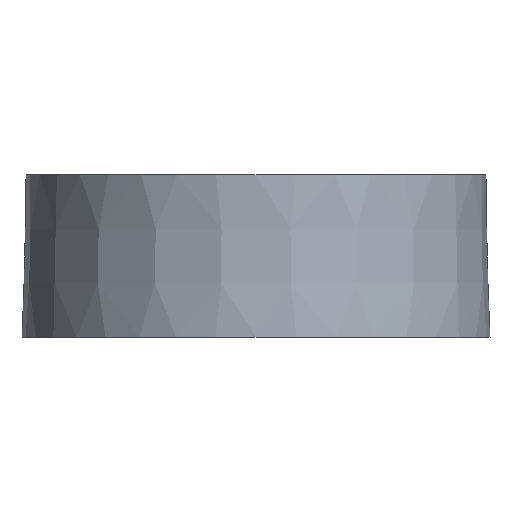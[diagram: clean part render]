
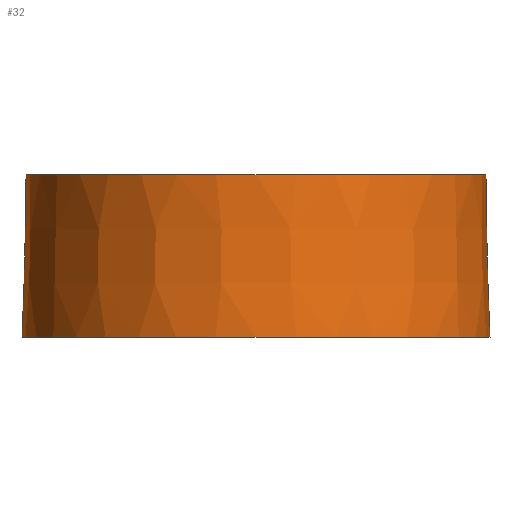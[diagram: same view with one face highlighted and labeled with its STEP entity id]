
A CAD part, front view. The second image highlights one B-rep face of the part: STEP entity #32.
In plain terms, the highlighted conical face has half-angle 1.43 degrees and reference radius 57.6 mm.
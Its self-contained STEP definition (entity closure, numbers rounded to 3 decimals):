
#32 = ADVANCED_FACE( '', ( #61, #62 ), #63, .T. );
#61 = FACE_BOUND( '', #84, .T. );
#62 = FACE_OUTER_BOUND( '', #85, .T. );
#63 = CONICAL_SURFACE( '', #86, 57.6, 0.025 );
#84 = EDGE_LOOP( '', ( #105 ) );
#85 = EDGE_LOOP( '', ( #106 ) );
#86 = AXIS2_PLACEMENT_3D( '', #107, #108, #109 );
#105 = ORIENTED_EDGE( '', *, *, #118, .T. );
#106 = ORIENTED_EDGE( '', *, *, #122, .F. );
#107 = CARTESIAN_POINT( '', ( 0., 0., -40. ) );
#108 = DIRECTION( '', ( 0., 0., -1. ) );
#109 = DIRECTION( '', ( 0., 1., 0. ) );
#118 = EDGE_CURVE( '', #127, #127, #128, .T. );
#122 = EDGE_CURVE( '', #133, #133, #134, .T. );
#127 = VERTEX_POINT( '', #139 );
#128 = CIRCLE( '', #140, 56.601 );
#133 = VERTEX_POINT( '', #145 );
#134 = CIRCLE( '', #146, 57.6 );
#139 = CARTESIAN_POINT( '', ( 0., 56.601, 0. ) );
#140 = AXIS2_PLACEMENT_3D( '', #151, #152, #153 );
#145 = CARTESIAN_POINT( '', ( 0., 57.6, -40. ) );
#146 = AXIS2_PLACEMENT_3D( '', #157, #158, #159 );
#151 = CARTESIAN_POINT( '', ( 0., 0., 0. ) );
#152 = DIRECTION( '', ( 0., 0., -1. ) );
#153 = DIRECTION( '', ( 0., 1., 0. ) );
#157 = CARTESIAN_POINT( '', ( 0., 0., -40. ) );
#158 = DIRECTION( '', ( 0., 0., -1. ) );
#159 = DIRECTION( '', ( 0., 1., 0. ) );
